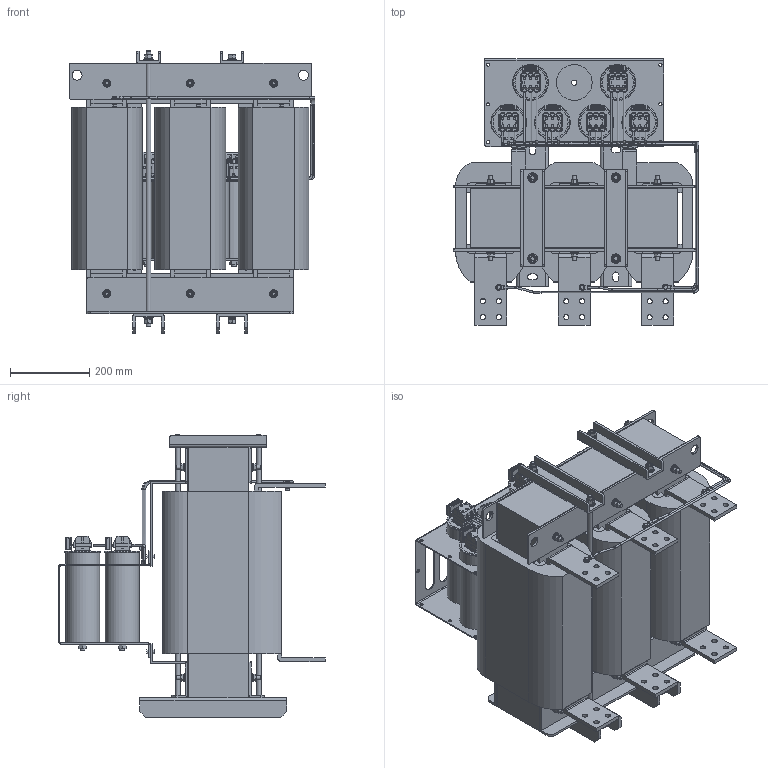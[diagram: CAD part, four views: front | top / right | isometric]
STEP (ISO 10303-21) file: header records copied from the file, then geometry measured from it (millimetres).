
FILE_DESCRIPTION (( 'STEP AP203' ), '1' );
FILE_NAME ('蔓躅漤铋 耔眢耥 翳朦蝠 _ ISINOF-560_999-4.STEP', '2026-07-21T08:30:46', ( '' ), ( '' ), 'SwSTEP 2.0', 'SolidWorks 2021', '' );
FILE_SCHEMA (( 'CONFIG_CONTROL_DESIGN' ));
Length unit declared in the file: millimetre
Products named in the file (1): 蔓躅漤铋 耔眢耥 翳朦蝠 _ ISINOF-560_999-4
Bounding box: 618.9 x 671.01 x 712 mm (x, y, z)
Surface area: 6784927 mm2 (no closed solid volume)
Topology: 0 solids, 208 shells, 3683 faces, 9737 edges, 6462 vertices
Faces by surface type: plane 2391, cylinder 1045, cone 138, bspline 60, torus 49
Full cylindrical faces by diameter (mm): 5 x72, 5.053 x3, 6 x7, 6.3 x72, 6.45 x3, 6.5 x6, 7 x3, 7.47 x3, 8 x12, 8.422 x12, 9.55 x3, 10 x8, 10.106 x8, 10.75 x12, 10.833 x12, 12 x24, 12.9 x8, 13 x37, 15.917 x12, 19.1 x8, 20 x12, 24 x12, 25 x4, 78.861 x6, 86 x6, 89 x6, 90 x7
Entity records: 120312 total; most frequent: CARTESIAN_POINT 32162, ORIENTED_EDGE 18080, DIRECTION 17134, EDGE_CURVE 9052, VERTEX_POINT 6296, VECTOR 6170, LINE 6170, AXIS2_PLACEMENT_3D 5482
